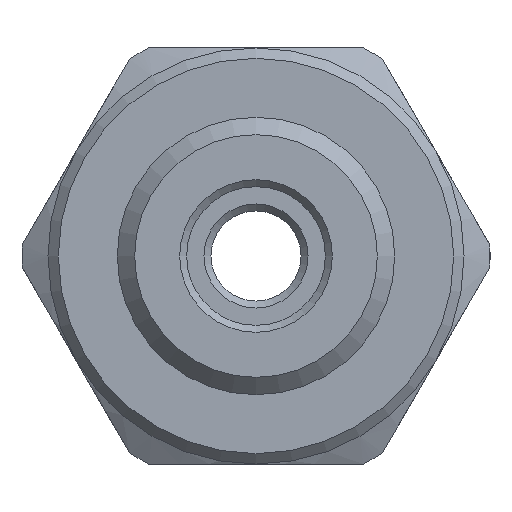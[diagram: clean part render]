
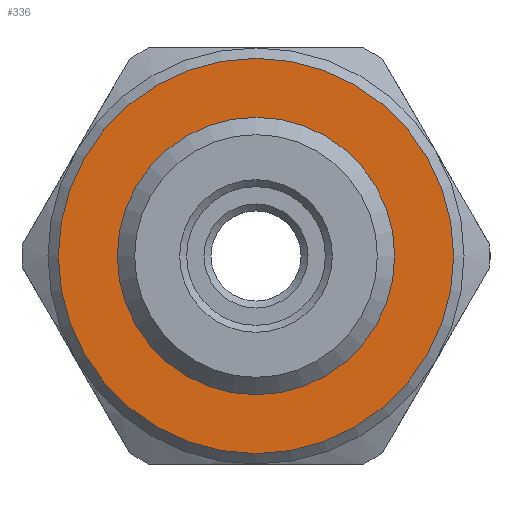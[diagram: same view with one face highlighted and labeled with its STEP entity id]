
A CAD part, left-side view. The second image highlights one B-rep face of the part: STEP entity #336.
In plain terms, the highlighted planar face has unit normal (-1, 0, 0).
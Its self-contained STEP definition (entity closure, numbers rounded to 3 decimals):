
#336=ADVANCED_FACE('',(#800,#801),#802,.F.);
#430=EDGE_CURVE('',#951,#951,#952,.T.);
#800=FACE_BOUND('',#1348,.T.);
#801=FACE_OUTER_BOUND('',#1349,.T.);
#802=PLANE('',#1350);
#951=VERTEX_POINT('',#1654);
#952=CIRCLE('',#1655,5.7);
#1348=EDGE_LOOP('',(#2650));
#1349=EDGE_LOOP('',(#2651));
#1350=AXIS2_PLACEMENT_3D('',#2652,#2653,#2654);
#1654=CARTESIAN_POINT('',(-4.0,0.,5.7));
#1655=AXIS2_PLACEMENT_3D('',#2775,#2776,#2777);
#2650=ORIENTED_EDGE('',*,*,#2958,.F.);
#2651=ORIENTED_EDGE('',*,*,#430,.F.);
#2652=CARTESIAN_POINT('',(-4.0,6.0,0.0));
#2653=DIRECTION('',(1.0,0.0,0.0));
#2654=DIRECTION('',(0.0,1.0,0.0));
#2775=CARTESIAN_POINT('',(-4.0,0.0,0.0));
#2776=DIRECTION('',(1.0,0.0,-0.0));
#2777=DIRECTION('',(0.0,0.,1.0));
#2958=EDGE_CURVE('',#3100,#3100,#3101,.T.);
#3100=VERTEX_POINT('',#3346);
#3101=CIRCLE('',#3347,4.);
#3346=CARTESIAN_POINT('',(-4.0,-4.,0.));
#3347=AXIS2_PLACEMENT_3D('',#3480,#3481,#3482);
#3480=CARTESIAN_POINT('',(-4.0,0.,0.));
#3481=DIRECTION('',(-1.0,0.0,0.0));
#3482=DIRECTION('',(0.0,-1.0,0.0));
